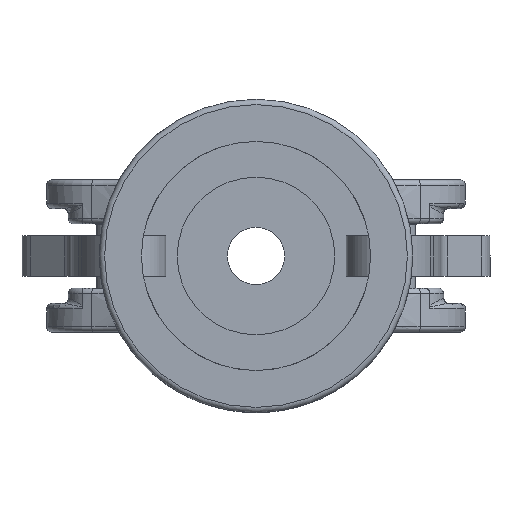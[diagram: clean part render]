
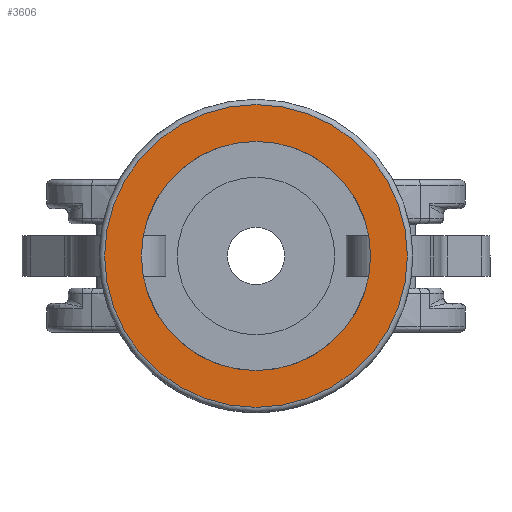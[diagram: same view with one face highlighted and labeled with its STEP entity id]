
A CAD part, left-side view. The second image highlights one B-rep face of the part: STEP entity #3606.
In plain terms, the highlighted planar face has unit normal (-1, 0, 0) as drawn and (1, 0, 0) by its records, which use the part's own axes.
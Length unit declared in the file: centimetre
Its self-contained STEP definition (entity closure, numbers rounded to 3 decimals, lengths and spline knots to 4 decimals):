
#1312=VERTEX_POINT('',#8789);
#1314=VERTEX_POINT('',#8795);
#1514=CIRCLE('',#3904,2.1463);
#1516=CIRCLE('',#3908,1.6256);
#1895=EDGE_CURVE('',#1312,#1312,#1514,.T.);
#1897=EDGE_CURVE('',#1314,#1314,#1516,.T.);
#2598=ORIENTED_EDGE('',*,*,#1897,.T.);
#2599=ORIENTED_EDGE('',*,*,#1895,.F.);
#3135=EDGE_LOOP('',(#2598));
#3136=EDGE_LOOP('',(#2599));
#3393=FACE_BOUND('',#3135,.T.);
#3394=FACE_BOUND('',#3136,.T.);
#3606=ADVANCED_FACE('',(#3393,#3394),#11447,.T.);
#3904=AXIS2_PLACEMENT_3D('',#8788,#4512,#4513);
#3907=AXIS2_PLACEMENT_3D('',#8793,#4518,$);
#3908=AXIS2_PLACEMENT_3D('',#8794,#4519,#4520);
#4512=DIRECTION('',(-1.,0.,0.));
#4513=DIRECTION('',(0.,0.,2.146));
#4518=DIRECTION('',(1.,0.,0.));
#4519=DIRECTION('',(-1.,0.,0.));
#4520=DIRECTION('',(0.,0.,-1.626));
#8788=CARTESIAN_POINT('',(0.,0.,0.));
#8789=CARTESIAN_POINT('',(0.,0.,-2.1463));
#8793=CARTESIAN_POINT('',(0.,0.,0.));
#8794=CARTESIAN_POINT('',(0.,0.,0.));
#8795=CARTESIAN_POINT('',(0.,0.,-1.6256));
#11447=PLANE('',#3907);
